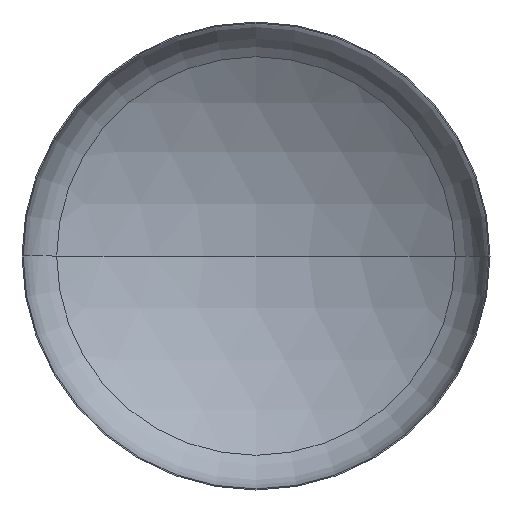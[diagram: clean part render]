
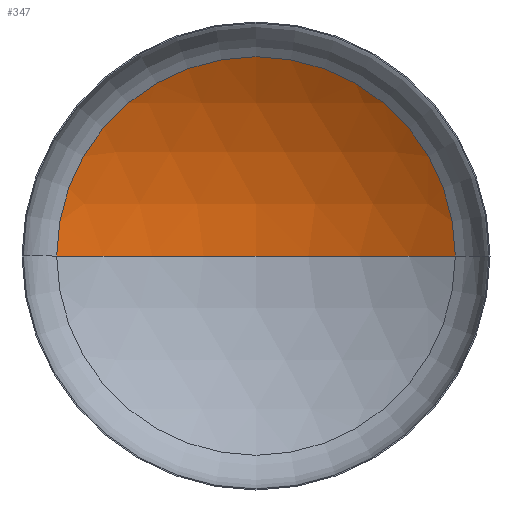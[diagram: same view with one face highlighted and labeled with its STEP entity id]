
A CAD part, front view. The second image highlights one B-rep face of the part: STEP entity #347.
In plain terms, the highlighted spherical face has radius 6400 mm.
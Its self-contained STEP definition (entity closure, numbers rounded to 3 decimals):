
#6 = DIRECTION ( 'NONE',  ( 1., 0., 0. ) ) ;
#7 = VERTEX_POINT ( 'NONE', #286 ) ;
#18 = DIRECTION ( 'NONE',  ( 0., 0., 1. ) ) ;
#49 = VERTEX_POINT ( 'NONE', #251 ) ;
#63 = ORIENTED_EDGE ( 'NONE', *, *, #154, .T. ) ;
#73 = AXIS2_PLACEMENT_3D ( 'NONE', #386, #159, #404 ) ;
#77 = ORIENTED_EDGE ( 'NONE', *, *, #156, .T. ) ;
#88 = EDGE_LOOP ( 'NONE', ( #113, #77, #63 ) ) ;
#96 = VERTEX_POINT ( 'NONE', #234 ) ;
#97 = AXIS2_PLACEMENT_3D ( 'NONE', #322, #18, #6 ) ;
#100 = AXIS2_PLACEMENT_3D ( 'NONE', #188, #189, #191 ) ;
#113 = ORIENTED_EDGE ( 'NONE', *, *, #157, .F. ) ;
#114 = AXIS2_PLACEMENT_3D ( 'NONE', #217, #218, #206 ) ;
#154 = EDGE_CURVE ( 'NONE', #49, #96, #205, .T. ) ;
#156 = EDGE_CURVE ( 'NONE', #7, #49, #331, .T. ) ;
#157 = EDGE_CURVE ( 'NONE', #7, #96, #263, .T. ) ;
#159 = DIRECTION ( 'NONE',  ( 0., 0., -1. ) ) ;
#188 = CARTESIAN_POINT ( 'NONE',  ( 0., -4321.688, 0. ) ) ;
#189 = DIRECTION ( 'NONE',  ( 0., 0., -1. ) ) ;
#191 = DIRECTION ( 'NONE',  ( -1., 0., 0. ) ) ;
#205 = CIRCLE ( 'NONE', #114, 3406.731 ) ;
#206 = DIRECTION ( 'NONE',  ( 1., 0., 0. ) ) ;
#217 = CARTESIAN_POINT ( 'NONE',  ( 0., 1096.262, 0. ) ) ;
#218 = DIRECTION ( 'NONE',  ( 0., -1., 0. ) ) ;
#234 = CARTESIAN_POINT ( 'NONE',  ( -3406.731, 1096.262, 0. ) ) ;
#236 = SPHERICAL_SURFACE ( 'NONE', #73, 6400. ) ;
#251 = CARTESIAN_POINT ( 'NONE',  ( 3406.731, 1096.262, 0. ) ) ;
#263 = CIRCLE ( 'NONE', #97, 6400. ) ;
#286 = CARTESIAN_POINT ( 'NONE',  ( 0., 2078.312, 0. ) ) ;
#322 = CARTESIAN_POINT ( 'NONE',  ( 0., -4321.688, 0. ) ) ;
#331 = CIRCLE ( 'NONE', #100, 6400. ) ;
#347 = ADVANCED_FACE ( 'NONE', ( #407 ), #236, .F. ) ;
#386 = CARTESIAN_POINT ( 'NONE',  ( 0., -4321.688, 0. ) ) ;
#404 = DIRECTION ( 'NONE',  ( -1., 0., 0. ) ) ;
#407 = FACE_OUTER_BOUND ( 'NONE', #88, .T. ) ;
